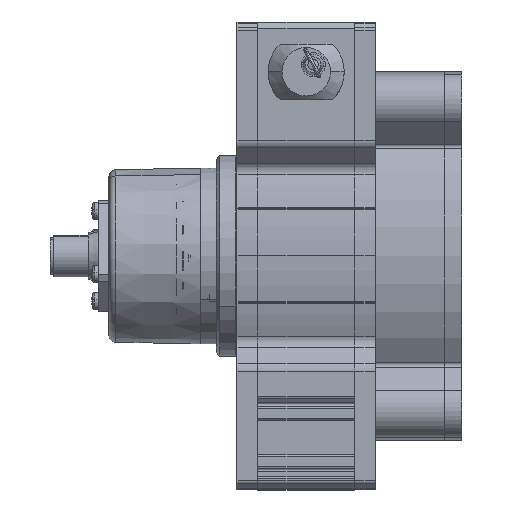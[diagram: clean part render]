
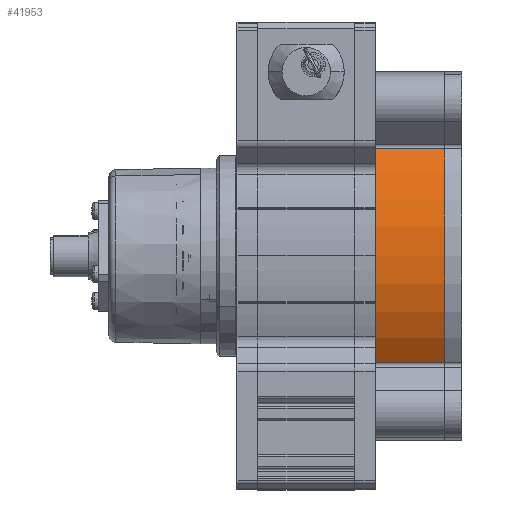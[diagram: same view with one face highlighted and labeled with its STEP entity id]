
A CAD part, top view. The second image highlights one B-rep face of the part: STEP entity #41953.
In plain terms, the highlighted cylindrical face has radius 53.25 mm (diameter 106.5 mm), a partial arc.
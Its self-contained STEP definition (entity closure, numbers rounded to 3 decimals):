
#176 = DIRECTION ( 'NONE',  ( -1., 0., 0. ) ) ;
#177 = VECTOR ( 'NONE', #176, 1000. ) ;
#178 = CARTESIAN_POINT ( 'NONE',  ( -106.313, 69.367, 24.687 ) ) ;
#179 = LINE ( 'NONE', #178, #177 ) ;
#181 = CARTESIAN_POINT ( 'NONE',  ( 44.567, 69.367, 24.687 ) ) ;
#439 = CARTESIAN_POINT ( 'NONE',  ( 64.567, 69.367, 24.687 ) ) ;
#1076 = DIRECTION ( 'NONE',  ( 0., 1., 0. ) ) ;
#1077 = DIRECTION ( 'NONE',  ( 1., 0., 0. ) ) ;
#1078 = CARTESIAN_POINT ( 'NONE',  ( 64.567, 38.482, -18.691 ) ) ;
#1079 = AXIS2_PLACEMENT_3D ( 'NONE', #1078, #1077, #1076 ) ;
#1080 = CIRCLE ( 'NONE', #1079, 53.25 ) ;
#1393 = DIRECTION ( 'NONE',  ( 0., 1., 0. ) ) ;
#1394 = DIRECTION ( 'NONE',  ( 1., 0., 0. ) ) ;
#1395 = CARTESIAN_POINT ( 'NONE',  ( 44.567, 38.482, -18.691 ) ) ;
#1396 = AXIS2_PLACEMENT_3D ( 'NONE', #1395, #1394, #1393 ) ;
#1397 = CIRCLE ( 'NONE', #1396, 53.25 ) ;
#1398 = DIRECTION ( 'NONE',  ( 0., 1., 0. ) ) ;
#1399 = DIRECTION ( 'NONE',  ( -1., 0., 0. ) ) ;
#1400 = AXIS2_PLACEMENT_3D ( 'NONE', #1401, #1399, #1398 ) ;
#1401 = CARTESIAN_POINT ( 'NONE',  ( -106.313, 38.482, -18.691 ) ) ;
#1402 = CYLINDRICAL_SURFACE ( 'NONE', #1400, 53.25 ) ;
#1472 = FACE_OUTER_BOUND ( 'NONE', #41763, .T. ) ;
#41495 = VERTEX_POINT ( 'NONE', #73490 ) ;
#41498 = EDGE_CURVE ( 'NONE', #41499, #41495, #73488, .T. ) ;
#41499 = VERTEX_POINT ( 'NONE', #73484 ) ;
#41570 = VERTEX_POINT ( 'NONE', #181 ) ;
#41572 = EDGE_CURVE ( 'NONE', #41700, #41570, #179, .T. ) ;
#41700 = VERTEX_POINT ( 'NONE', #439 ) ;
#41763 = EDGE_LOOP ( 'NONE', ( #41954, #41955, #41935, #41936 ) ) ;
#41935 = ORIENTED_EDGE ( 'NONE', *, *, #41498, .T. ) ;
#41936 = ORIENTED_EDGE ( 'NONE', *, *, #41937, .F. ) ;
#41937 = EDGE_CURVE ( 'NONE', #41700, #41495, #1080, .T. ) ;
#41953 = ADVANCED_FACE ( 'NONE', ( #1472 ), #1402, .T. ) ;
#41954 = ORIENTED_EDGE ( 'NONE', *, *, #41572, .T. ) ;
#41955 = ORIENTED_EDGE ( 'NONE', *, *, #41956, .T. ) ;
#41956 = EDGE_CURVE ( 'NONE', #41570, #41499, #1397, .T. ) ;
#73484 = CARTESIAN_POINT ( 'NONE',  ( 44.567, 7.597, 24.687 ) ) ;
#73485 = DIRECTION ( 'NONE',  ( 1., 0., 0. ) ) ;
#73486 = VECTOR ( 'NONE', #73485, 1000. ) ;
#73487 = CARTESIAN_POINT ( 'NONE',  ( -106.313, 7.597, 24.687 ) ) ;
#73488 = LINE ( 'NONE', #73487, #73486 ) ;
#73490 = CARTESIAN_POINT ( 'NONE',  ( 64.567, 7.597, 24.687 ) ) ;
